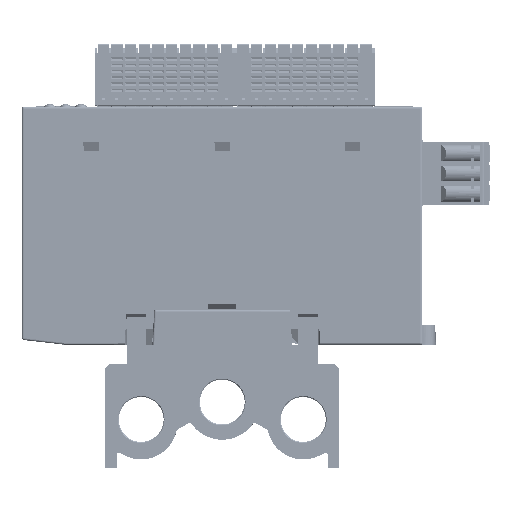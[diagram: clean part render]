
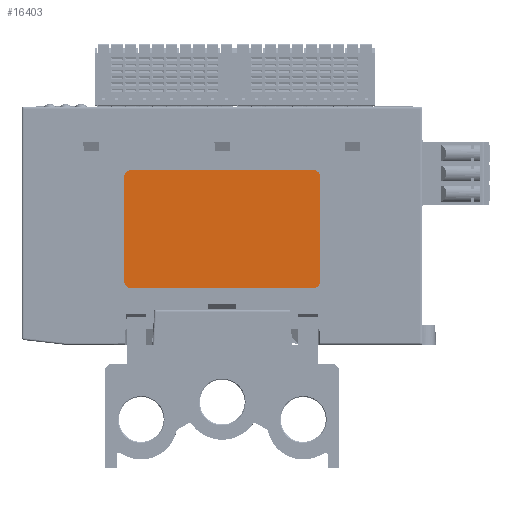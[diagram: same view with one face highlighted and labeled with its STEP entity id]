
A CAD part, front view. The second image highlights one B-rep face of the part: STEP entity #16403.
In plain terms, the highlighted planar face has unit normal (0, -1, 0).
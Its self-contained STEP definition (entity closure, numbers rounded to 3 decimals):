
#7051=FACE_OUTER_BOUND('',#70895,.T.);
#16403=ADVANCED_FACE('',(#7051),#25943,.F.);
#25943=PLANE('',#179811);
#33632=LINE('',#251000,#51670);
#33636=LINE('',#251008,#51674);
#33638=LINE('',#251012,#51676);
#33641=LINE('',#251020,#51679);
#51670=VECTOR('',#197656,1.);
#51674=VECTOR('',#197662,1.);
#51676=VECTOR('',#197666,1.);
#51679=VECTOR('',#197673,1.);
#70895=EDGE_LOOP('',(#84534,#84535,#84536,#84537,#84538,#84539,#84540,#84541));
#84534=ORIENTED_EDGE('',*,*,#150940,.F.);
#84535=ORIENTED_EDGE('',*,*,#150945,.T.);
#84536=ORIENTED_EDGE('',*,*,#150946,.F.);
#84537=ORIENTED_EDGE('',*,*,#150947,.T.);
#84538=ORIENTED_EDGE('',*,*,#150942,.F.);
#84539=ORIENTED_EDGE('',*,*,#150948,.T.);
#84540=ORIENTED_EDGE('',*,*,#150936,.F.);
#84541=ORIENTED_EDGE('',*,*,#150949,.T.);
#133780=VERTEX_POINT('',#251001);
#133781=VERTEX_POINT('',#251002);
#133782=VERTEX_POINT('',#251007);
#133783=VERTEX_POINT('',#251009);
#133784=VERTEX_POINT('',#251013);
#133785=VERTEX_POINT('',#251014);
#133786=VERTEX_POINT('',#251019);
#133787=VERTEX_POINT('',#251021);
#150936=EDGE_CURVE('',#133780,#133781,#33632,.T.);
#150940=EDGE_CURVE('',#133782,#133783,#33636,.T.);
#150942=EDGE_CURVE('',#133784,#133785,#33638,.T.);
#150945=EDGE_CURVE('',#133782,#133786,#174364,.T.);
#150946=EDGE_CURVE('',#133787,#133786,#33641,.T.);
#150947=EDGE_CURVE('',#133787,#133785,#174365,.T.);
#150948=EDGE_CURVE('',#133784,#133781,#174366,.T.);
#150949=EDGE_CURVE('',#133780,#133783,#174367,.T.);
#174364=CIRCLE('',#179807,1.8);
#174365=CIRCLE('',#179808,1.8);
#174366=CIRCLE('',#179809,1.8);
#174367=CIRCLE('',#179810,1.8);
#179807=AXIS2_PLACEMENT_3D('',#251018,#197671,#197672);
#179808=AXIS2_PLACEMENT_3D('',#251022,#197674,#197675);
#179809=AXIS2_PLACEMENT_3D('',#251023,#197676,#197677);
#179810=AXIS2_PLACEMENT_3D('',#251024,#197678,#197679);
#179811=AXIS2_PLACEMENT_3D('',#251025,#197680,#197681);
#197656=DIRECTION('',(0.,0.,-1.));
#197662=DIRECTION('',(1.,0.,0.));
#197666=DIRECTION('',(-1.,0.,0.));
#197671=DIRECTION('',(0.,-1.,0.));
#197672=DIRECTION('',(0.,0.,1.));
#197673=DIRECTION('',(0.,0.,1.));
#197674=DIRECTION('',(0.,-1.,0.));
#197675=DIRECTION('',(0.,0.,-1.));
#197676=DIRECTION('',(0.,-1.,0.));
#197677=DIRECTION('',(0.,0.,-1.));
#197678=DIRECTION('',(0.,-1.,0.));
#197679=DIRECTION('',(0.,0.,-1.));
#197680=DIRECTION('',(0.,1.,0.));
#197681=DIRECTION('',(0.,0.,-1.));
#251000=CARTESIAN_POINT('',(525.15,397.36,34.634));
#251001=CARTESIAN_POINT('',(525.15,397.36,47.934));
#251002=CARTESIAN_POINT('',(525.15,397.36,21.334));
#251007=CARTESIAN_POINT('',(476.75,397.36,49.734));
#251008=CARTESIAN_POINT('',(500.05,397.36,49.734));
#251009=CARTESIAN_POINT('',(523.35,397.36,49.734));
#251012=CARTESIAN_POINT('',(475.05,397.36,19.534));
#251013=CARTESIAN_POINT('',(523.35,397.36,19.534));
#251014=CARTESIAN_POINT('',(476.75,397.36,19.534));
#251018=CARTESIAN_POINT('',(476.75,397.36,47.934));
#251019=CARTESIAN_POINT('',(474.95,397.36,47.934));
#251020=CARTESIAN_POINT('',(474.95,397.36,34.634));
#251021=CARTESIAN_POINT('',(474.95,397.36,21.334));
#251022=CARTESIAN_POINT('',(476.75,397.36,21.334));
#251023=CARTESIAN_POINT('',(523.35,397.36,21.334));
#251024=CARTESIAN_POINT('',(523.35,397.36,47.934));
#251025=CARTESIAN_POINT('',(500.041,397.36,23.341));
